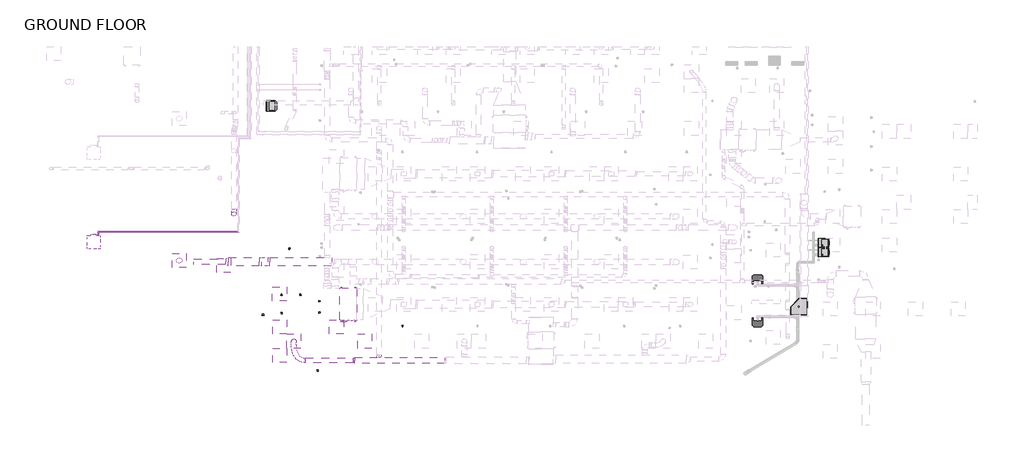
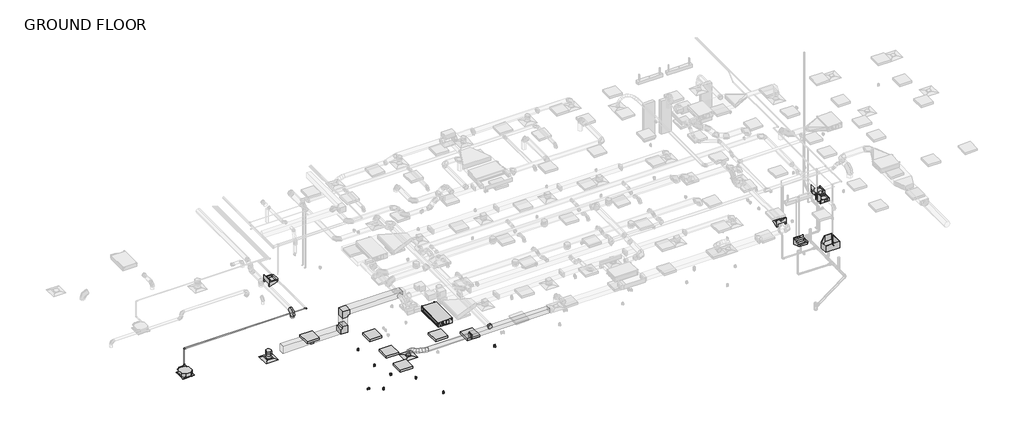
# One storey, part 1 of 20: 9 duct segments, 8 proxies, 7 duct fittings, 6 flow terminals, 6 light fixtures, 6 pipe fittings, 6 pipe segments, 3 switching devices, 2 air terminals.
"""IFC4 building model written with IfcOpenShell, lengths in millimetres."""

from ifc_helpers import new_model, si_unit, point, frame, frame_2d, origin, place, context, project, spatial, polyline, circle_curve, ellipse_curve, trimmed, segment, composite_curve, outline, extrude, transform, mapped, element, save
from ifc_brep_helpers import plane_surface, cylinder_surface, advanced_brep
from components import air_terminal_a1f6e78c, air_terminal_e9020785, mechanical_equipment_d478180c, mechanical_equipment_2d84379e, duplex_receptacle_countertop_10251bba, rectangular_elbow_mitered_transition_standard_eba0128a, rectangular_transition_angle_45_degree_15636467, rectangular_to_round_transition_angle_45_degree_e9430680, round_elbow_1_d_a253342a, round_takeoff_standard_d3b0d0f9, round_takeoff_standard_c386a54e, flow_terminal_3ae34a69, drinking_fountain_handicap_standard_fbed446a, flow_terminal_3fd0b982, troffer_corner_insert_2x2_3lamp_e67c7f8f, elbow_generic_standard_c06ac706, elbow_generic_standard_a088f956

model = new_model("IFC4")

# Units and contexts
model_context = context("Model", 3, world=origin())
ifc_project = project(units=[si_unit("LENGTHUNIT", "METRE", prefix="MILLI")], contexts=[model_context])

# Site, building, storey
site = spatial("IfcSite", under=ifc_project)
building = spatial("IfcBuilding", under=site)
storey = spatial("IfcBuildingStorey", under=building, Name="GROUND FLOOR", Elevation=30480.0)

# Air terminals
placement = place(None, origin())
air_terminal_shape = air_terminal_a1f6e78c(model_context)
element("IfcAirTerminal", 1, ObjectType="Supply Diffuser - Rectangular Face Round Neck - Hosted : 24\"x24\" Face 10\" Neck - Hosted", at=placement, inside=storey, context=model_context, shape_type="MappedRepresentation", body=[
    mapped(air_terminal_shape, transform((-13605.5079607, -2346.9179995, 32715.2), x_axis=(-1.0, 0.0, 0.0), y_axis=(0.0, 1.0, 0.0), z_axis=(0.0, 0.0, -1.0))),
])
air_terminal_2_shape = air_terminal_e9020785(model_context)
element("IfcAirTerminal", 2, ObjectType="Supply Diffuser - Rectangular Face Round Neck - Hosted : 24\"x24\" Face 8\" Neck - Hosted", at=placement, inside=storey, context=model_context, shape_type="MappedRepresentation", body=[
    mapped(air_terminal_2_shape, transform((-8685.8454607, -5809.2554995, 33223.2), x_axis=(0.0, -1.0, 0.0), y_axis=(-1.0, 0.0, 0.0), z_axis=(0.0, 0.0, -1.0))),
])

# Proxies
mechanical_equipment_shape = mechanical_equipment_d478180c(model_context)
element("IfcBuildingElementProxy", 3, Name="PEFY-P-NMAU-E_Medium_Static_Ducted : PEFY-P36NMAU-E", ObjectType="PEFY-P-NMAU-E_Medium_Static_Ducted : PEFY-P36NMAU-E", at=placement, inside=storey, context=model_context, shape_type="MappedRepresentation", body=[
    mapped(mechanical_equipment_shape, transform((-6407.5018914, -4238.1177424, 33458.15), x_axis=(0.0, -1.0, 0.0), y_axis=(1.0, 0.0, 0.0), z_axis=(0.0, 0.0, 1.0))),
])
mechanical_equipment_2_shape = mechanical_equipment_2d84379e(model_context)
element("IfcBuildingElementProxy", 4, Name="PLFY-P-NCMU-E_4-way_24x24 : PLFY-P12NCMU-E", ObjectType="PLFY-P-NCMU-E_4-way_24x24 : PLFY-P12NCMU-E", at=placement, inside=storey, context=model_context, shape_type="MappedRepresentation", body=[
    mapped(mechanical_equipment_2_shape, transform((-17276.6017107, -1632.1077908, 32715.2), x_axis=(1.0, 0.0, 0.0), y_axis=(0.0, -1.0, 0.0), z_axis=(0.0, 0.0, -1.0))),
])
duplex_receptacle_countertop_shape = duplex_receptacle_countertop_10251bba(model_context)
element("IfcBuildingElementProxy", 5, Name="Duplex Receptacle : Countertop", ObjectType="Duplex Receptacle : Countertop", at=placement, inside=storey, context=model_context, shape_type="MappedRepresentation", body=[
    mapped(duplex_receptacle_countertop_shape, transform((-9216.8506869, -3834.4054995, 31699.2), x_axis=(1.0, 0.0, 0.0), y_axis=(0.0, 0.0, 1.0), z_axis=(0.0, -1.0, 0.0))),
])
element("IfcBuildingElementProxy", 6, Name="Duplex Receptacle : Countertop", ObjectType="Duplex Receptacle : Countertop", at=placement, inside=storey, context=model_context, shape_type="MappedRepresentation", body=[
    mapped(duplex_receptacle_countertop_shape, transform((-7612.6954607, -4094.8803296, 31699.2), x_axis=(0.0, -1.0, 0.0), y_axis=(0.0, 0.0, 1.0), z_axis=(-1.0, 0.0, 0.0))),
])
element("IfcBuildingElementProxy", 7, Name="Duplex Receptacle : Countertop", ObjectType="Duplex Receptacle : Countertop", at=placement, inside=storey, context=model_context, shape_type="MappedRepresentation", body=[
    mapped(duplex_receptacle_countertop_shape, transform((-10013.3077558, -4704.3554995, 31283.4921716), x_axis=(0.0, 0.0, 1.0), y_axis=(-1.0, 0.0, 0.0), z_axis=(0.0, -1.0, 0.0))),
])
element("IfcBuildingElementProxy", 8, Name="Duplex Receptacle : Standard", ObjectType="Duplex Receptacle : Standard", at=placement, inside=storey, context=model_context, shape_type="MappedRepresentation", body=[
    mapped(duplex_receptacle_countertop_shape, transform((-8405.3543873, -3834.4054995, 30937.2), x_axis=(1.0, 0.0, 0.0), y_axis=(0.0, 0.0, 1.0), z_axis=(0.0, -1.0, 0.0))),
])
element("IfcBuildingElementProxy", 9, Name="Duplex Receptacle : Standard", ObjectType="Duplex Receptacle : Standard", at=placement, inside=storey, context=model_context, shape_type="MappedRepresentation", body=[
    mapped(duplex_receptacle_countertop_shape, transform((-7612.6954607, -4580.3290088, 30937.2), x_axis=(0.0, -1.0, 0.0), y_axis=(0.0, 0.0, 1.0), z_axis=(-1.0, 0.0, 0.0))),
])
element("IfcBuildingElementProxy", 10, Name="Duplex Receptacle : Standard", ObjectType="Duplex Receptacle : Standard", at=placement, inside=storey, context=model_context, shape_type="MappedRepresentation", body=[
    mapped(duplex_receptacle_countertop_shape, transform((-9209.1166922, -4580.5304995, 30937.2), x_axis=(-1.0, 0.0, 0.0), y_axis=(0.0, 0.0, 1.0), z_axis=(0.0, 1.0, 0.0))),
])

# Duct fittings
rectangular_elbow_mitered_transition_standard_shape = rectangular_elbow_mitered_transition_standard_eba0128a(model_context)
element("IfcDuctFitting", 11, ObjectType="Rectangular Elbow - Mitered - Transition : Standard", at=placement, inside=storey, context=model_context, shape_type="MappedRepresentation", body=[
    mapped(rectangular_elbow_mitered_transition_standard_shape, transform((-9938.144811, -2399.3054995, 33020.0), x_axis=(1.0, 0.0, 0.0), y_axis=(0.0, 0.0, 1.0), z_axis=(0.0, -1.0, 0.0))),
])
element("IfcDuctFitting", 12, ObjectType="Rectangular Elbow - Mitered - Transition : Standard", at=placement, inside=storey, context=model_context, shape_type="MappedRepresentation", body=[
    mapped(rectangular_elbow_mitered_transition_standard_shape, transform((-9938.144811, -2399.3054995, 33909.0), x_axis=(0.0, 0.0, 1.0), y_axis=(1.0, 0.0, 0.0), z_axis=(0.0, 1.0, 0.0))),
])
rectangular_transition_angle_45_degree_shape = rectangular_transition_angle_45_degree_15636467(model_context)
element("IfcDuctFitting", 13, ObjectType="Rectangular Transition - Angle : 45 Degree", at=placement, inside=storey, context=model_context, shape_type="MappedRepresentation", body=[
    mapped(rectangular_transition_angle_45_degree_shape, transform((-11614.544811, -2399.3054995, 33020.0), x_axis=(1.0, 0.0, 0.0), y_axis=(0.0, 1.0, 0.0), z_axis=(0.0, 0.0, 1.0))),
])
rectangular_to_round_transition_angle_45_degree_shape = rectangular_to_round_transition_angle_45_degree_e9430680(model_context)
element("IfcDuctFitting", 14, ObjectType="Rectangular to Round Transition - Angle : 45 Degree", at=placement, inside=storey, context=model_context, shape_type="MappedRepresentation", body=[
    mapped(rectangular_to_round_transition_angle_45_degree_shape, transform((-6064.4792966, -6635.2850038, 33877.25), x_axis=(-1.0, 0.0, 0.0), y_axis=(0.0, -1.0, 0.0), z_axis=(0.0, 0.0, 1.0))),
])
round_elbow_1_d_shape = round_elbow_1_d_a253342a(model_context)
element("IfcDuctFitting", 15, ObjectType="Round Elbow : 1 D", at=placement, inside=storey, context=model_context, shape_type="MappedRepresentation", body=[
    mapped(round_elbow_1_d_shape, transform((-11256.8513201, -341.9054995, 33121.6), x_axis=(0.0, -1.0, 0.0), y_axis=(0.0, 0.0, -1.0), z_axis=(1.0, 0.0, 0.0))),
])
round_takeoff_standard_shape = round_takeoff_standard_d3b0d0f9(model_context)
element("IfcDuctFitting", 16, ObjectType="Round Takeoff : Standard", at=placement, inside=storey, context=model_context, shape_type="MappedRepresentation", body=[
    mapped(round_takeoff_standard_shape, transform((-5028.2454607, -6508.2850038, 33877.25), x_axis=(0.0, 1.0, 0.0), y_axis=(1.0, 0.0, 0.0), z_axis=(0.0, 0.0, -1.0))),
])
round_takeoff_standard_2_shape = round_takeoff_standard_c386a54e(model_context)
element("IfcDuctFitting", 17, ObjectType="Round Takeoff : Standard", at=placement, inside=storey, context=model_context, shape_type="MappedRepresentation", body=[
    mapped(round_takeoff_standard_2_shape, transform((-13605.5079607, -2346.9179995, 32998.9347748), x_axis=(0.0, 0.0, -1.0), y_axis=(1.0, 0.0, 0.0), z_axis=(0.0, -1.0, 0.0))),
])

# Duct segments
element("IfcDuctSegment", 18, ObjectType="Flex - Round", at=placement, inside=storey, context=model_context, shape_type="AdvancedBrep", body=[
    advanced_brep(
    [(-8198.0792966, -6736.8850038, 33877.25), (-8198.0792966, -6635.2850038, 33775.65), (-8198.0792966, -6533.6850038, 33877.25), (-8198.0792966, -6635.2850038, 33978.85), (-8218.4985021, -6736.8850038, 33877.25), (-8209.2197661, -6635.2850038, 33775.65), (-8203.7506501, -6533.6850038, 33877.25), (-8213.0293861, -6635.2850038, 33978.85), (-8780.4464452, -5846.3123979, 33277.175), (-8722.9023592, -5714.6545149, 33277.175), (-8591.2444762, -5772.198601, 33277.175), (-8648.7885622, -5903.856484, 33277.175), (-8339.1813775, -6719.2681674, 33872.6992727), (-8305.7046683, -6621.2004973, 33772.0117333), (-8286.7257752, -6521.5726042, 33874.121162), (-8320.2024844, -6619.6402743, 33974.8087013), (-8470.9946788, -6667.3379246, 33857.9603557), (-8407.576349, -6581.0662995, 33760.620787), (-8373.445886, -6487.4076424, 33864.4244129), (-8436.8642158, -6573.6792675, 33961.7639816), (-8586.4194049, -6583.3695154, 33831.5875842), (-8494.3723968, -6517.9244901, 33740.7892274), (-8447.4747299, -6433.5536332, 33847.5099626), (-8539.5217381, -6498.9986586, 33938.3083194), (-8672.9590499, -6473.1112187, 33793.1745119), (-8559.9397444, -6434.3865455, 33711.6853032), (-8505.3268469, -6359.8454977, 33821.8306621), (-8618.3461523, -6398.570171, 33903.3198707), (-8729.5028063, -6349.7598134, 33744.3839657), (-8605.1998762, -6335.6506069, 33672.6311849), (-8548.0458512, -6266.6530828, 33784.969235), (-8672.3487813, -6280.7622894, 33856.7220158), (-8763.1059458, -6224.3988891, 33686.2556065), (-8633.5596559, -6229.8507249, 33623.5730468), (-8576.5078643, -6160.4718052, 33735.7342483), (-8706.0541542, -6155.0199695, 33798.4168081), (-8780.2289374, -6105.1031652, 33618.9182516), (-8648.4220926, -6126.3042664, 33565.1254814), (-8592.2442877, -6050.8362895, 33673.8496695), (-8724.0511326, -6029.6351883, 33727.6424397), (-8786.0904012, -6000.0543024, 33542.8019622), (-8653.5396732, -6034.5872396, 33498.6691717), (-8598.028372, -5947.1742189, 33598.7382218), (-8730.5790999, -5912.6412817, 33642.8710123), (-8785.3303968, -5917.6725877, 33459.215254), (-8652.8864253, -5963.7775382, 33426.8237401), (-8597.211928, -5858.6746506, 33508.9441744), (-8729.6558995, -5812.5697001, 33541.3356883), (-8782.2172351, -5864.8720883, 33369.7155214), (-8650.2671566, -5919.3536663, 33351.5228491), (-8593.5185156, -5796.0328612, 33402.7629174), (-8725.4685941, -5741.5512832, 33420.9555897), (-8780.4464452, -5846.3123979, 33291.2670205), (-8648.7885622, -5903.856484, 33286.0190236), (-8591.2444762, -5772.198601, 33302.0197505), (-8722.9023592, -5714.6545149, 33307.2677474)],
    [
        (0, 1, circle_curve(frame((-8198.0792966, -6635.2850038, 33877.25), z_axis=(1.0, 0.0, 0.0), x_axis=(0.0, -1.0, 0.0)), 101.6)),
        (1, 2, circle_curve(frame((-8198.0792966, -6635.2850038, 33877.25), z_axis=(1.0, 0.0, 0.0), x_axis=(0.0, -1.0, 0.0)), 101.6)),
        (2, 3, circle_curve(frame((-8198.0792966, -6635.2850038, 33877.25), z_axis=(1.0, 0.0, 0.0), x_axis=(0.0, -1.0, 0.0)), 101.6)),
        (3, 0, circle_curve(frame((-8198.0792966, -6635.2850038, 33877.25), z_axis=(1.0, 0.0, 0.0), x_axis=(0.0, -1.0, 0.0)), 101.6)),
        (0, 4),
        (4, 5, ellipse_curve(frame((-8211.1245761, -6635.2850038, 33877.25), z_axis=(0.9972022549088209, -0.07237495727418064, 0.01869567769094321), x_axis=(0.07475067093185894, 0.9655093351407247, -0.24940741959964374)), 101.8850484, 101.6)),
        (5, 1),
        (5, 6, ellipse_curve(frame((-8211.1245761, -6635.2850038, 33877.25), z_axis=(0.9972022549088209, -0.07237495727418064, 0.01869567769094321), x_axis=(0.07475067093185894, 0.9655093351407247, -0.24940741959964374)), 101.8850484, 101.6)),
        (6, 2),
        (6, 7, ellipse_curve(frame((-8211.1245761, -6635.2850038, 33877.25), z_axis=(0.9972022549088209, -0.07237495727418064, 0.01869567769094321), x_axis=(0.07475067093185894, 0.9655093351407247, -0.24940741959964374)), 101.8850484, 101.6)),
        (7, 3),
        (7, 4, ellipse_curve(frame((-8211.1245761, -6635.2850038, 33877.25), z_axis=(0.9972022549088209, -0.07237495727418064, 0.01869567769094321), x_axis=(0.07475067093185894, 0.9655093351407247, -0.24940741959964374)), 101.8850484, 101.6)),
        (8, 9, circle_curve(frame((-8685.8454607, -5809.2554995, 33277.175), z_axis=(0.0, 0.0, -1.0), x_axis=(-0.9311120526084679, -0.3647332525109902, 0.0)), 101.6)),
        (9, 10, circle_curve(frame((-8685.8454607, -5809.2554995, 33277.175), z_axis=(0.0, 0.0, -1.0), x_axis=(-0.9311120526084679, -0.3647332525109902, 0.0)), 101.6)),
        (10, 11, circle_curve(frame((-8685.8454607, -5809.2554995, 33277.175), z_axis=(0.0, 0.0, -1.0), x_axis=(-0.9311120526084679, -0.3647332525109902, 0.0)), 101.6)),
        (11, 8, circle_curve(frame((-8685.8454607, -5809.2554995, 33277.175), z_axis=(0.0, 0.0, -1.0), x_axis=(-0.9311120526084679, -0.3647332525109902, 0.0)), 101.6)),
        (4, 12),
        (12, 13, ellipse_curve(frame((-8312.9535763, -6620.4203858, 33873.4102173), z_axis=(0.9639965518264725, -0.25629211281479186, 0.07088724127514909), x_axis=(0.26585434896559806, 0.9232205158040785, -0.2774623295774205)), 102.330517, 101.6)),
        (13, 5),
        (13, 14, ellipse_curve(frame((-8312.9535763, -6620.4203858, 33873.4102173), z_axis=(0.9639965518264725, -0.25629211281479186, 0.07088724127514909), x_axis=(0.26585434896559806, 0.9232205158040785, -0.2774623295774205)), 102.330517, 101.6)),
        (14, 6),
        (14, 15, ellipse_curve(frame((-8312.9535763, -6620.4203858, 33873.4102173), z_axis=(0.9639965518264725, -0.25629211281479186, 0.07088724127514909), x_axis=(0.26585434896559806, 0.9232205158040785, -0.2774623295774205)), 102.330517, 101.6)),
        (15, 7),
        (15, 12, ellipse_curve(frame((-8312.9535763, -6620.4203858, 33873.4102173), z_axis=(0.9639965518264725, -0.25629211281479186, 0.07088724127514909), x_axis=(0.26585434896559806, 0.9232205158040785, -0.2774623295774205)), 102.330517, 101.6)),
        (12, 16),
        (16, 17, ellipse_curve(frame((-8422.2202824, -6577.3727835, 33861.1923843), z_axis=(0.8678005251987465, -0.4756430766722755, 0.14382597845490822), x_axis=(0.4963065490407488, 0.8153501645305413, -0.29813406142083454)), 102.4855472, 101.6)),
        (17, 13),
        (17, 18, ellipse_curve(frame((-8422.2202824, -6577.3727835, 33861.1923843), z_axis=(0.8678005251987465, -0.4756430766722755, 0.14382597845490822), x_axis=(0.4963065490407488, 0.8153501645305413, -0.29813406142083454)), 102.4855472, 101.6)),
        (18, 14),
        (18, 19, ellipse_curve(frame((-8422.2202824, -6577.3727835, 33861.1923843), z_axis=(0.8678005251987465, -0.4756430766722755, 0.14382597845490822), x_axis=(0.4963065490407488, 0.8153501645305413, -0.29813406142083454)), 102.4855472, 101.6)),
        (19, 15),
        (19, 16, ellipse_curve(frame((-8422.2202824, -6577.3727835, 33861.1923843), z_axis=(0.8678005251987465, -0.4756430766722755, 0.14382597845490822), x_axis=(0.4963065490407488, 0.8153501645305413, -0.29813406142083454)), 102.4855472, 101.6)),
        (16, 20),
        (20, 21, ellipse_curve(frame((-8516.9470674, -6508.4615743, 33839.5487734), z_axis=(0.702315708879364, -0.6752916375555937, 0.2252417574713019), x_axis=(0.7098106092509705, 0.6402843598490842, -0.2936066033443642)), 102.6208376, 101.6)),
        (21, 17),
        (21, 22, ellipse_curve(frame((-8516.9470674, -6508.4615743, 33839.5487734), z_axis=(0.702315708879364, -0.6752916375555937, 0.2252417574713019), x_axis=(0.7098106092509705, 0.6402843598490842, -0.2936066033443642)), 102.6208376, 101.6)),
        (22, 18),
        (22, 23, ellipse_curve(frame((-8516.9470674, -6508.4615743, 33839.5487734), z_axis=(0.702315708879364, -0.6752916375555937, 0.2252417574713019), x_axis=(0.7098106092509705, 0.6402843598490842, -0.2936066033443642)), 102.6208376, 101.6)),
        (23, 19),
        (23, 20, ellipse_curve(frame((-8516.9470674, -6508.4615743, 33839.5487734), z_axis=(0.702315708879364, -0.6752916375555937, 0.2252417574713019), x_axis=(0.7098106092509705, 0.6402843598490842, -0.2936066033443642)), 102.6208376, 101.6)),
        (20, 24),
        (24, 25, ellipse_curve(frame((-8589.1429484, -6416.4783582, 33807.502587), z_axis=(0.497296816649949, -0.8127730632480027, 0.3034729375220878), x_axis=(0.857785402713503, 0.4082076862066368, -0.31236307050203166)), 102.3212376, 101.6)),
        (25, 21),
        (25, 26, ellipse_curve(frame((-8589.1429484, -6416.4783582, 33807.502587), z_axis=(0.497296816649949, -0.8127730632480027, 0.3034729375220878), x_axis=(0.857785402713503, 0.4082076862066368, -0.31236307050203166)), 102.3212376, 101.6)),
        (26, 22),
        (26, 27, ellipse_curve(frame((-8589.1429484, -6416.4783582, 33807.502587), z_axis=(0.497296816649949, -0.8127730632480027, 0.3034729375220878), x_axis=(0.857785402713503, 0.4082076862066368, -0.31236307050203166)), 102.3212376, 101.6)),
        (27, 23),
        (27, 24, ellipse_curve(frame((-8589.1429484, -6416.4783582, 33807.502587), z_axis=(0.497296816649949, -0.8127730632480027, 0.3034729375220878), x_axis=(0.857785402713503, 0.4082076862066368, -0.31236307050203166)), 102.3212376, 101.6)),
        (24, 28),
        (28, 29, ellipse_curve(frame((-8638.7743288, -6308.2064481, 33764.6766004), z_axis=(0.3153905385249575, -0.8717420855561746, 0.37495939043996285), x_axis=(0.9008898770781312, 0.15088375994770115, -0.40697852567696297)), 101.9821261, 101.6)),
        (29, 25),
        (29, 30, ellipse_curve(frame((-8638.7743288, -6308.2064481, 33764.6766004), z_axis=(0.3153905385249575, -0.8717420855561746, 0.37495939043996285), x_axis=(0.9008898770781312, 0.15088375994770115, -0.40697852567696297)), 101.9821261, 101.6)),
        (30, 26),
        (30, 31, ellipse_curve(frame((-8638.7743288, -6308.2064481, 33764.6766004), z_axis=(0.3153905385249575, -0.8717420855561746, 0.37495939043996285), x_axis=(0.9008898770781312, 0.15088375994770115, -0.40697852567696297)), 101.9821261, 101.6)),
        (31, 27),
        (31, 28, ellipse_curve(frame((-8638.7743288, -6308.2064481, 33764.6766004), z_axis=(0.3153905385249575, -0.8717420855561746, 0.37495939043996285), x_axis=(0.9008898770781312, 0.15088375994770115, -0.40697852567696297)), 101.9821261, 101.6)),
        (28, 32),
        (32, 33, ellipse_curve(frame((-8669.8069051, -6192.4353472, 33710.9949274), z_axis=(0.18059511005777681, -0.8749201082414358, 0.44933307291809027), x_axis=(0.8112873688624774, -0.12576767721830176, -0.570959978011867)), 101.8440562, 101.6)),
        (33, 29),
        (33, 34, ellipse_curve(frame((-8669.8069051, -6192.4353472, 33710.9949274), z_axis=(0.18059511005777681, -0.8749201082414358, 0.44933307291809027), x_axis=(0.8112873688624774, -0.12576767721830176, -0.570959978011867)), 101.8440562, 101.6)),
        (34, 30),
        (34, 35, ellipse_curve(frame((-8669.8069051, -6192.4353472, 33710.9949274), z_axis=(0.18059511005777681, -0.8749201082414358, 0.44933307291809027), x_axis=(0.8112873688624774, -0.12576767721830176, -0.570959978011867)), 101.8440562, 101.6)),
        (35, 31),
        (35, 32, ellipse_curve(frame((-8669.8069051, -6192.4353472, 33710.9949274), z_axis=(0.18059511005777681, -0.8749201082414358, 0.44933307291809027), x_axis=(0.8112873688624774, -0.12576767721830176, -0.570959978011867)), 101.8440562, 101.6)),
        (32, 36),
        (36, 37, ellipse_curve(frame((-8686.2366126, -6077.9697273, 33646.3839605), z_axis=(0.08478508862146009, -0.8385227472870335, 0.5382295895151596), x_axis=(0.5731333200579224, -0.4008265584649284, -0.7147420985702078)), 101.8415032, 101.6)),
        (37, 33),
        (37, 38, ellipse_curve(frame((-8686.2366126, -6077.9697273, 33646.3839605), z_axis=(0.08478508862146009, -0.8385227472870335, 0.5382295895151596), x_axis=(0.5731333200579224, -0.4008265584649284, -0.7147420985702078)), 101.8415032, 101.6)),
        (38, 34),
        (38, 39, ellipse_curve(frame((-8686.2366126, -6077.9697273, 33646.3839605), z_axis=(0.08478508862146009, -0.8385227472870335, 0.5382295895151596), x_axis=(0.5731333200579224, -0.4008265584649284, -0.7147420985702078)), 101.8415032, 101.6)),
        (39, 35),
        (39, 36, ellipse_curve(frame((-8686.2366126, -6077.9697273, 33646.3839605), z_axis=(0.08478508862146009, -0.8385227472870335, 0.5382295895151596), x_axis=(0.5731333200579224, -0.4008265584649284, -0.7147420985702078)), 101.8415032, 101.6)),
        (36, 40),
        (40, 41, ellipse_curve(frame((-8692.0593866, -5973.6142607, 33570.770092), z_axis=(0.019403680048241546, -0.7582927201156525, 0.6516253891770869), x_axis=(0.2979591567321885, -0.6177476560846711, -0.7277418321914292)), 101.9832289, 101.6)),
        (41, 37),
        (41, 42, ellipse_curve(frame((-8692.0593866, -5973.6142607, 33570.770092), z_axis=(0.019403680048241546, -0.7582927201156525, 0.6516253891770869), x_axis=(0.2979591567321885, -0.6177476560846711, -0.7277418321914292)), 101.9832289, 101.6)),
        (42, 38),
        (42, 43, ellipse_curve(frame((-8692.0593866, -5973.6142607, 33570.770092), z_axis=(0.019403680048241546, -0.7582927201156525, 0.6516253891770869), x_axis=(0.2979591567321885, -0.6177476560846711, -0.7277418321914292)), 101.9832289, 101.6)),
        (43, 39),
        (43, 40, ellipse_curve(frame((-8692.0593866, -5973.6142607, 33570.770092), z_axis=(0.019403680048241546, -0.7582927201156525, 0.6516253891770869), x_axis=(0.2979591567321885, -0.6177476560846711, -0.7277418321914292)), 101.9832289, 101.6)),
        (40, 44),
        (44, 45, ellipse_curve(frame((-8691.2711624, -5888.1736191, 33484.0797142), z_axis=(-0.01834951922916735, -0.6095278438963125, 0.7925522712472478), x_axis=(0.09556421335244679, -0.7901257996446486, -0.6054491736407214)), 102.3747884, 101.6)),
        (45, 41),
        (45, 46, ellipse_curve(frame((-8691.2711624, -5888.1736191, 33484.0797142), z_axis=(-0.01834951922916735, -0.6095278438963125, 0.7925522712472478), x_axis=(0.09556421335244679, -0.7901257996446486, -0.6054491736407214)), 102.3747884, 101.6)),
        (46, 42),
        (46, 47, ellipse_curve(frame((-8691.2711624, -5888.1736191, 33484.0797142), z_axis=(-0.01834951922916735, -0.6095278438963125, 0.7925522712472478), x_axis=(0.09556421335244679, -0.7901257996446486, -0.6054491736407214)), 102.3747884, 101.6)),
        (47, 43),
        (47, 44, ellipse_curve(frame((-8691.2711624, -5888.1736191, 33484.0797142), z_axis=(-0.01834951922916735, -0.6095278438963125, 0.7925522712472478), x_axis=(0.09556421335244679, -0.7901257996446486, -0.6054491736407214)), 102.3747884, 101.6)),
        (44, 48),
        (48, 49, ellipse_curve(frame((-8687.8678753, -5830.4524747, 33386.2392194), z_axis=(-0.02624939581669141, -0.3732420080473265, 0.9273625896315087), x_axis=(-0.0266548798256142, -0.9270910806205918, -0.37388720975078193)), 102.7591668, 101.6)),
        (49, 45),
        (49, 50, ellipse_curve(frame((-8687.8678753, -5830.4524747, 33386.2392194), z_axis=(-0.02624939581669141, -0.3732420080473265, 0.9273625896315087), x_axis=(-0.0266548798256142, -0.9270910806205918, -0.37388720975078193)), 102.7591668, 101.6)),
        (50, 46),
        (50, 51, ellipse_curve(frame((-8687.8678753, -5830.4524747, 33386.2392194), z_axis=(-0.02624939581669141, -0.3732420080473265, 0.9273625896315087), x_axis=(-0.0266548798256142, -0.9270910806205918, -0.37388720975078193)), 102.7591668, 101.6)),
        (51, 47),
        (51, 48, ellipse_curve(frame((-8687.8678753, -5830.4524747, 33386.2392194), z_axis=(-0.02624939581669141, -0.3732420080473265, 0.9273625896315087), x_axis=(-0.0266548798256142, -0.9270910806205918, -0.37388720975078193)), 102.7591668, 101.6)),
        (48, 52),
        (52, 53, ellipse_curve(frame((-8685.8454607, -5809.2554995, 33296.6433855), z_axis=(-0.011055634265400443, -0.11587436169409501, 0.9932023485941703), x_axis=(-0.09433356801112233, -0.9887123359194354, -0.11640057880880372)), 102.2953683, 101.6)),
        (53, 49),
        (53, 54, ellipse_curve(frame((-8685.8454607, -5809.2554995, 33296.6433855), z_axis=(-0.011055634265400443, -0.11587436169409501, 0.9932023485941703), x_axis=(-0.09433356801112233, -0.9887123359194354, -0.11640057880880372)), 102.2953683, 101.6)),
        (54, 50),
        (54, 55, ellipse_curve(frame((-8685.8454607, -5809.2554995, 33296.6433855), z_axis=(-0.011055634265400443, -0.11587436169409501, 0.9932023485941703), x_axis=(-0.09433356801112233, -0.9887123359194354, -0.11640057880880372)), 102.2953683, 101.6)),
        (55, 51),
        (55, 52, ellipse_curve(frame((-8685.8454607, -5809.2554995, 33296.6433855), z_axis=(-0.011055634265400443, -0.11587436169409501, 0.9932023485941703), x_axis=(-0.09433356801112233, -0.9887123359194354, -0.11640057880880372)), 102.2953683, 101.6)),
        (52, 8),
        (11, 53),
        (10, 54),
        (9, 55),
    ],
    [
        plane_surface(frame((-8198.0792966, -6635.2850038, 33775.65), z_axis=(1.0, 0.0, 0.0), x_axis=(0.0, -1.0, 0.0))),
        cylinder_surface(frame((-8198.0792966, -6635.2850038, 33877.25), z_axis=(1.0, 0.0, 0.0), x_axis=(0.0, -1.0, 0.0)), 101.6),
        plane_surface(frame((-8685.8454607, -5910.8554995, 33277.175), z_axis=(0.0, 0.0, -1.0), x_axis=(-1.0, 0.0, 0.0))),
        cylinder_surface(frame((-8211.1245761, -6635.2850038, 33877.25), z_axis=(0.9888246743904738, -0.144344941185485, 0.03728674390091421), x_axis=(-0.144344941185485, -0.9895237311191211, -0.0027061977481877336)), 101.6),
        cylinder_surface(frame((-8312.9535763, -6620.4203858, 33873.4102173), z_axis=(0.9254048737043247, -0.36458004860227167, 0.10347563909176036), x_axis=(-0.3646514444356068, -0.9309521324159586, -0.01890638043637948)), 101.6),
        cylinder_surface(frame((-8422.2202824, -6577.3727835, 33861.1923843), z_axis=(0.7951993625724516, -0.5784863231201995, 0.18169080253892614), x_axis=(-0.5792359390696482, -0.8133379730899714, -0.05447080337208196)), 101.6),
        cylinder_surface(frame((-8516.9470674, -6508.4615743, 33839.5487734), z_axis=(0.5954592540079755, -0.7586618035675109, 0.264311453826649), x_axis=(-0.762069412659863, -0.6375396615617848, -0.11310786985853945)), 101.6),
        cylinder_surface(frame((-8589.1429484, -6416.4783582, 33807.502587), z_axis=(0.3921237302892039, -0.8554262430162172, 0.33835620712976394), x_axis=(-0.8663776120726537, -0.46706019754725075, -0.17676143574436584)), 101.6),
        cylinder_surface(frame((-8638.7743288, -6308.2064481, 33764.6766004), z_axis=(0.23629381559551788, -0.8815251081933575, 0.4087526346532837), x_axis=(-0.9090375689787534, -0.34914771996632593, -0.2274787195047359)), 101.6),
        cylinder_surface(frame((-8669.8069051, -6192.4353472, 33710.9949274), z_axis=(0.12403085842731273, -0.8641218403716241, 0.4877599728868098), x_axis=(-0.9231582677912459, -0.28073787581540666, -0.26261199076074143)), 101.6),
        cylinder_surface(frame((-8686.2366126, -6077.9697273, 33646.3839605), z_axis=(0.04513720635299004, -0.8089467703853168, 0.58614653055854), x_axis=(-0.9258356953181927, -0.254258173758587, -0.2796087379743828)), 101.6),
        cylinder_surface(frame((-8692.0593866, -5973.6142607, 33570.770092), z_axis=(-0.006475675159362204, -0.7019396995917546, 0.7122069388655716), x_axis=(-0.9255499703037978, -0.265424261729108, -0.2700133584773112)), 101.6),
        cylinder_surface(frame((-8691.2711624, -5888.1736191, 33484.0797142), z_axis=(-0.029945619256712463, -0.5078899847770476, 0.8609012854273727), x_axis=(-0.9268429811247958, -0.3083750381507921, -0.21416564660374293)), 101.6),
        cylinder_surface(frame((-8687.8678753, -5830.4524747, 33386.2392194), z_axis=(-0.02196096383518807, -0.2301733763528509, 0.9729018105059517), x_axis=(-0.9299499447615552, -0.3525531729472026, -0.10440000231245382)), 101.6),
        cylinder_surface(frame((-8685.8454607, -5809.2554995, 33296.6433855), z_axis=(0.0, 0.0, 0.9999999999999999), x_axis=(-0.9311120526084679, -0.3647332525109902, 0.0)), 101.6),
    ],
    [
        (0, [[1, 2, 3, 4]]),
        (1, [[-1, 5, 6, 7]]),
        (1, [[-2, -7, 8, 9]]),
        (1, [[-3, -9, 10, 11]]),
        (1, [[-4, -11, 12, -5]]),
        (2, [[13, 14, 15, 16]]),
        (3, [[-6, 17, 18, 19]]),
        (3, [[-8, -19, 20, 21]]),
        (3, [[-10, -21, 22, 23]]),
        (3, [[-12, -23, 24, -17]]),
        (4, [[-18, 25, 26, 27]]),
        (4, [[-20, -27, 28, 29]]),
        (4, [[-22, -29, 30, 31]]),
        (4, [[-24, -31, 32, -25]]),
        (5, [[-26, 33, 34, 35]]),
        (5, [[-28, -35, 36, 37]]),
        (5, [[-30, -37, 38, 39]]),
        (5, [[-32, -39, 40, -33]]),
        (6, [[-34, 41, 42, 43]]),
        (6, [[-36, -43, 44, 45]]),
        (6, [[-38, -45, 46, 47]]),
        (6, [[-40, -47, 48, -41]]),
        (7, [[-42, 49, 50, 51]]),
        (7, [[-44, -51, 52, 53]]),
        (7, [[-46, -53, 54, 55]]),
        (7, [[-48, -55, 56, -49]]),
        (8, [[-50, 57, 58, 59]]),
        (8, [[-52, -59, 60, 61]]),
        (8, [[-54, -61, 62, 63]]),
        (8, [[-56, -63, 64, -57]]),
        (9, [[-58, 65, 66, 67]]),
        (9, [[-60, -67, 68, 69]]),
        (9, [[-62, -69, 70, 71]]),
        (9, [[-64, -71, 72, -65]]),
        (10, [[-66, 73, 74, 75]]),
        (10, [[-68, -75, 76, 77]]),
        (10, [[-70, -77, 78, 79]]),
        (10, [[-72, -79, 80, -73]]),
        (11, [[-74, 81, 82, 83]]),
        (11, [[-76, -83, 84, 85]]),
        (11, [[-78, -85, 86, 87]]),
        (11, [[-80, -87, 88, -81]]),
        (12, [[-82, 89, 90, 91]]),
        (12, [[-84, -91, 92, 93]]),
        (12, [[-86, -93, 94, 95]]),
        (12, [[-88, -95, 96, -89]]),
        (13, [[-90, 97, 98, 99]]),
        (13, [[-92, -99, 100, 101]]),
        (13, [[-94, -101, 102, 103]]),
        (13, [[-96, -103, 104, -97]]),
        (14, [[-98, 105, -16, 106]]),
        (14, [[-100, -106, -15, 107]]),
        (14, [[-102, -107, -14, 108]]),
        (14, [[-104, -108, -13, -105]]),
    ],
),
])
element("IfcDuctSegment", 19, ObjectType="Mitered Elbows / Taps", at=placement, inside=storey, context=model_context, shape_type="SweptSolid", body=[
    extrude(outline(polyline([(-2214.200321, -6508.2850038), (-2214.200321, -6762.2850038), (-6064.4792966, -6762.2850038), (-6064.4792966, -6508.2850038), (-2214.200321, -6508.2850038)])), frame((0.0, 0.0, 33775.65), z_axis=(0.0, 0.0, 1.0), x_axis=(1.0, 0.0, 0.0)), (0.0, 0.0, 1.0), 203.2),
])
element("IfcDuctSegment", 20, ObjectType="Mitered Elbows / Taps", at=placement, inside=storey, context=model_context, shape_type="SweptSolid", body=[
    extrude(outline(polyline([(-12986.144811, -2526.3054995), (-12986.144811, -2272.3054995), (-11614.544811, -2272.3054995), (-11614.544811, -2526.3054995), (-12986.144811, -2526.3054995)])), frame((0.0, 0.0, 32842.2), z_axis=(0.0, 0.0, 1.0), x_axis=(1.0, 0.0, 0.0)), (0.0, 0.0, 1.0), 355.6),
])
element("IfcDuctSegment", 21, ObjectType="Mitered Elbows / Taps", at=placement, inside=storey, context=model_context, shape_type="SweptSolid", body=[
    extrude(outline(polyline([(-11491.902762, -2577.1054995), (-11491.902762, -2221.5054995), (-10166.744811, -2221.5054995), (-10166.744811, -2577.1054995), (-11491.902762, -2577.1054995)])), frame((0.0, 0.0, 32893.0), z_axis=(0.0, 0.0, 1.0), x_axis=(1.0, 0.0, 0.0)), (0.0, 0.0, 1.0), 254.0),
])
element("IfcDuctSegment", 22, ObjectType="Mitered Elbows / Taps", at=placement, inside=storey, context=model_context, shape_type="SweptSolid", body=[
    extrude(outline(polyline([(-9811.144811, -2221.5054995), (-9811.144811, -2577.1054995), (-10065.144811, -2577.1054995), (-10065.144811, -2221.5054995), (-9811.144811, -2221.5054995)])), frame((0.0, 0.0, 33248.6), z_axis=(0.0, 0.0, 1.0), x_axis=(1.0, 0.0, 0.0)), (0.0, 0.0, 1.0), 431.8),
])
element("IfcDuctSegment", 23, ObjectType="Mitered Elbows / Taps", at=placement, inside=storey, context=model_context, shape_type="SweptSolid", body=[
    extrude(outline(polyline([(-9709.544811, -2577.1054995), (-9709.544811, -2221.5054995), (-7067.944811, -2221.5054995), (-7067.944811, -2577.1054995), (-9709.544811, -2577.1054995)])), frame((0.0, 0.0, 33782.0), z_axis=(0.0, 0.0, 1.0), x_axis=(1.0, 0.0, 0.0)), (0.0, 0.0, 1.0), 254.0),
])
element("IfcDuctSegment", 24, ObjectType="Taps / Short Radius", at=placement, inside=storey, context=model_context, shape_type="SweptSolid", body=[
    extrude(outline(composite_curve([segment(trimmed(circle_curve(frame_2d((-13605.5079607, -2346.9179995)), 127.0), [point((-13478.5079607, -2346.9179995))], [point((-13605.5079607, -2473.9179995))], False, "CARTESIAN"), True, "CONTINUOUS"), segment(trimmed(circle_curve(frame_2d((-13605.5079607, -2346.9179995)), 127.0), [point((-13605.5079607, -2473.9179995))], [point((-13732.5079607, -2346.9179995))], False, "CARTESIAN"), True, "CONTINUOUS"), segment(trimmed(circle_curve(frame_2d((-13605.5079607, -2346.9179995)), 127.0), [point((-13732.5079607, -2346.9179995))], [point((-13605.5079607, -2219.9179995))], False, "CARTESIAN"), True, "CONTINUOUS"), segment(trimmed(circle_curve(frame_2d((-13605.5079607, -2346.9179995)), 127.0), [point((-13605.5079607, -2219.9179995))], [point((-13478.5079607, -2346.9179995))], False, "CARTESIAN"), True, "CONTINUOUS")], self_intersect=False)), frame((0.0, 0.0, 32769.175), z_axis=(0.0, 0.0, 1.0), x_axis=(1.0, 0.0, 0.0)), (0.0, 0.0, 1.0), 128.1597748),
])
element("IfcDuctSegment", 25, ObjectType="Taps / Short Radius", at=placement, inside=storey, context=model_context, shape_type="SweptSolid", body=[
    extrude(outline(composite_curve([segment(trimmed(circle_curve(frame_2d((-6635.2850038, 33877.25)), 101.6), [point((-6533.6850038, 33877.25))], [point((-6635.2850038, 33775.65))], False, "CARTESIAN"), True, "CONTINUOUS"), segment(trimmed(circle_curve(frame_2d((-6635.2850038, 33877.25)), 101.6), [point((-6635.2850038, 33775.65))], [point((-6736.8850038, 33877.25))], False, "CARTESIAN"), True, "CONTINUOUS"), segment(trimmed(circle_curve(frame_2d((-6635.2850038, 33877.25)), 101.6), [point((-6736.8850038, 33877.25))], [point((-6635.2850038, 33978.85))], False, "CARTESIAN"), True, "CONTINUOUS"), segment(trimmed(circle_curve(frame_2d((-6635.2850038, 33877.25)), 101.6), [point((-6635.2850038, 33978.85))], [point((-6533.6850038, 33877.25))], False, "CARTESIAN"), True, "CONTINUOUS")], self_intersect=False)), frame((-8198.0792966, 0.0, 0.0), z_axis=(1.0, 0.0, 0.0), x_axis=(0.0, 1.0, 0.0)), (0.0, 0.0, 1.0), 2072.2789755),
])
element("IfcDuctSegment", 26, ObjectType="Taps / Short Radius", at=placement, inside=storey, context=model_context, shape_type="SweptSolid", body=[
    extrude(outline(composite_curve([segment(trimmed(circle_curve(frame_2d((-11256.8513201, -341.9054995)), 101.6), [point((-11155.2513201, -341.9054995))], [point((-11256.8513201, -443.5054995))], False, "CARTESIAN"), True, "CONTINUOUS"), segment(trimmed(circle_curve(frame_2d((-11256.8513201, -341.9054995)), 101.6), [point((-11256.8513201, -443.5054995))], [point((-11358.4513201, -341.9054995))], False, "CARTESIAN"), True, "CONTINUOUS"), segment(trimmed(circle_curve(frame_2d((-11256.8513201, -341.9054995)), 101.6), [point((-11358.4513201, -341.9054995))], [point((-11256.8513201, -240.3054995))], False, "CARTESIAN"), True, "CONTINUOUS"), segment(trimmed(circle_curve(frame_2d((-11256.8513201, -341.9054995)), 101.6), [point((-11256.8513201, -240.3054995))], [point((-11155.2513201, -341.9054995))], False, "CARTESIAN"), True, "CONTINUOUS")], self_intersect=False)), frame((0.0, 0.0, 32816.8), z_axis=(0.0, 0.0, 1.0), x_axis=(1.0, 0.0, 0.0)), (0.0, 0.0, 1.0), 101.6),
])

# Flow terminals
flow_terminal_shape = flow_terminal_3ae34a69(model_context)
element("IfcFlowTerminal", 27, ObjectType="Lavatory_Commercial-Willoughby-ES-1015-HC : Lavatory_Commercial-Willoughby-ES-1015-HC", at=placement, inside=storey, context=model_context, shape_type="MappedRepresentation", body=[
    mapped(flow_terminal_shape, transform((11224.5795393, -3342.2804995, 31699.2), x_axis=(-1.0, 0.0, 0.0), y_axis=(0.0, 0.0, 1.0), z_axis=(0.0, 1.0, 0.0))),
])
element("IfcFlowTerminal", 28, ObjectType="Lavatory_Commercial-Willoughby-ES-1015-HC : Lavatory_Commercial-Willoughby-ES-1015-HC", at=placement, inside=storey, context=model_context, shape_type="MappedRepresentation", body=[
    mapped(flow_terminal_shape, transform((11224.5795393, -4809.1304995, 31699.2), x_axis=(1.0, 0.0, 0.0), y_axis=(0.0, 0.0, 1.0), z_axis=(0.0, -1.0, 0.0))),
])
element("IfcFlowTerminal", 29, ObjectType="Lavatory_Commercial-Willoughby-ES-1015-HC : Lavatory_Commercial-Willoughby-ES-1015-HC", at=placement, inside=storey, context=model_context, shape_type="MappedRepresentation", body=[
    mapped(flow_terminal_shape, transform((-9879.6454607, 4296.7695005, 31394.4), x_axis=(0.0, 1.0, 0.0), y_axis=(0.0, 0.0, 1.0), z_axis=(1.0, 0.0, 0.0))),
])
drinking_fountain_handicap_standard_shape = drinking_fountain_handicap_standard_fbed446a(model_context)
element("IfcFlowTerminal", 30, ObjectType="Drinking Fountain - Handicap : Standard", at=placement, inside=storey, context=model_context, shape_type="MappedRepresentation", body=[
    mapped(drinking_fountain_handicap_standard_shape, transform((13828.0795393, -1992.9054995, 31242.0), x_axis=(0.0, 1.0, 0.0), y_axis=(0.0, 0.0, 1.0), z_axis=(1.0, 0.0, 0.0))),
])
element("IfcFlowTerminal", 31, ObjectType="Drinking Fountain - Handicap : Standard", at=placement, inside=storey, context=model_context, shape_type="MappedRepresentation", body=[
    mapped(drinking_fountain_handicap_standard_shape, transform((13828.0795393, -1586.5054995, 31394.4), x_axis=(0.0, 1.0, 0.0), y_axis=(0.0, 0.0, 1.0), z_axis=(1.0, 0.0, 0.0))),
])
flow_terminal_2_shape = flow_terminal_3fd0b982(model_context)
element("IfcFlowTerminal", 32, ObjectType="Sink - Mop : 28\"x28\"", at=placement, inside=storey, context=model_context, shape_type="MappedRepresentation", body=[
    mapped(flow_terminal_2_shape, transform((13348.6545393, -4685.3054995, 30480.0), x_axis=(-1.0, 0.0, 0.0), y_axis=(0.0, -1.0, 0.0), z_axis=(0.0, 0.0, 1.0))),
])

# Light fixtures
troffer_corner_insert_2x2_3lamp_shape = troffer_corner_insert_2x2_3lamp_e67c7f8f(model_context)
element("IfcLightFixture", 33, ObjectType="Troffer Corner Insert : 2x2 3Lamp", at=placement, inside=storey, context=model_context, shape_type="MappedRepresentation", body=[
    mapped(troffer_corner_insert_2x2_3lamp_shape, transform((-5637.8454607, -5809.2554995, 30784.8), x_axis=(1.0, 0.0, 0.0), y_axis=(0.0, 1.0, 0.0), z_axis=(0.0, 0.0, 1.0))),
])
element("IfcLightFixture", 34, ObjectType="Troffer Corner Insert : 2x2 3Lamp", at=placement, inside=storey, context=model_context, shape_type="MappedRepresentation", body=[
    mapped(troffer_corner_insert_2x2_3lamp_shape, transform((-6857.0454607, -5199.6554995, 30784.8), x_axis=(1.0, 0.0, 0.0), y_axis=(0.0, 1.0, 0.0), z_axis=(0.0, 0.0, 1.0))),
])
element("IfcLightFixture", 35, ObjectType="Troffer Corner Insert : 2x2 3Lamp", at=placement, inside=storey, context=model_context, shape_type="MappedRepresentation", body=[
    mapped(troffer_corner_insert_2x2_3lamp_shape, transform((-9298.6204607, -3780.4553042, 30784.8), x_axis=(1.0, 0.0, 0.0), y_axis=(0.0, 1.0, 0.0), z_axis=(0.0, 0.0, 1.0))),
])
element("IfcLightFixture", 36, ObjectType="Troffer Corner Insert : 2x2 3Lamp", at=placement, inside=storey, context=model_context, shape_type="MappedRepresentation", body=[
    mapped(troffer_corner_insert_2x2_3lamp_shape, transform((-11696.5392107, -2561.2553042, 30784.8), x_axis=(1.0, 0.0, 0.0), y_axis=(0.0, 1.0, 0.0), z_axis=(0.0, 0.0, 1.0))),
])
element("IfcLightFixture", 37, ObjectType="Troffer Corner Insert : 2x2 3Lamp", at=placement, inside=storey, context=model_context, shape_type="MappedRepresentation", body=[
    mapped(troffer_corner_insert_2x2_3lamp_shape, transform((-9295.4454607, -5199.6554995, 30784.8), x_axis=(1.0, 0.0, 0.0), y_axis=(0.0, 1.0, 0.0), z_axis=(0.0, 0.0, 1.0))),
])
element("IfcLightFixture", 38, ObjectType="Troffer Corner Insert : 2x2 3Lamp", at=placement, inside=storey, context=model_context, shape_type="MappedRepresentation", body=[
    mapped(troffer_corner_insert_2x2_3lamp_shape, transform((-9295.4454607, -6418.8554995, 30784.8), x_axis=(1.0, 0.0, 0.0), y_axis=(0.0, 1.0, 0.0), z_axis=(0.0, 0.0, 1.0))),
])

# Pipe fittings
elbow_generic_standard_shape = elbow_generic_standard_c06ac706(model_context)
element("IfcPipeFitting", 39, ObjectType="Elbow - Generic : Standard", at=placement, inside=storey, context=model_context, shape_type="MappedRepresentation", body=[
    mapped(elbow_generic_standard_shape, transform((-17078.1642107, -1137.3456434, 32865.2187602), x_axis=(0.0, 1.0, 0.0), y_axis=(0.0, 0.0, 1.0), z_axis=(1.0, 0.0, 0.0))),
])
element("IfcPipeFitting", 40, ObjectType="Elbow - Generic : Standard", at=placement, inside=storey, context=model_context, shape_type="MappedRepresentation", body=[
    mapped(elbow_generic_standard_shape, transform((-17078.1642107, -1137.3456434, 33680.4), x_axis=(0.0, 0.0, 1.0), y_axis=(1.0, 0.0, 0.0), z_axis=(0.0, 1.0, 0.0))),
])
element("IfcPipeFitting", 41, ObjectType="Elbow - Generic : Standard", at=placement, inside=storey, context=model_context, shape_type="MappedRepresentation", body=[
    mapped(elbow_generic_standard_shape, transform((-11032.9642107, -1137.3456434, 33680.4), x_axis=(1.0, 0.0, 0.0), y_axis=(0.0, 1.0, 0.0), z_axis=(0.0, 0.0, 1.0))),
])
elbow_generic_standard_2_shape = elbow_generic_standard_a088f956(model_context)
element("IfcPipeFitting", 42, ObjectType="Elbow - Generic : Standard", at=placement, inside=storey, context=model_context, shape_type="MappedRepresentation", body=[
    mapped(elbow_generic_standard_2_shape, transform((-17074.9892107, -1083.1156703, 32835.8500102), x_axis=(0.0, 1.0, 0.0), y_axis=(0.0, 0.0, 1.0), z_axis=(1.0, 0.0, 0.0))),
])
element("IfcPipeFitting", 43, ObjectType="Elbow - Generic : Standard", at=placement, inside=storey, context=model_context, shape_type="MappedRepresentation", body=[
    mapped(elbow_generic_standard_2_shape, transform((-17074.9892107, -1083.1156703, 33680.4), x_axis=(0.0, 0.0, 1.0), y_axis=(1.0, 0.0, 0.0), z_axis=(0.0, 1.0, 0.0))),
])
element("IfcPipeFitting", 44, ObjectType="Elbow - Generic : Standard", at=placement, inside=storey, context=model_context, shape_type="MappedRepresentation", body=[
    mapped(elbow_generic_standard_2_shape, transform((-11080.664993, -1083.1156703, 33680.4), x_axis=(1.0, 0.0, 0.0), y_axis=(0.0, 1.0, 0.0), z_axis=(0.0, 0.0, 1.0))),
])

# Pipe segments
element("IfcPipeSegment", 45, ObjectType="Copper Tubing", at=placement, inside=storey, context=model_context, shape_type="SweptSolid", body=[
    extrude(outline(composite_curve([segment(trimmed(circle_curve(frame_2d((32865.2187602, -17078.1642107)), 14.2875), [point((32865.2187602, -17063.8767107))], [point((32879.5062602, -17078.1642107))], False, "CARTESIAN"), True, "CONTINUOUS"), segment(trimmed(circle_curve(frame_2d((32865.2187602, -17078.1642107)), 14.2875), [point((32879.5062602, -17078.1642107))], [point((32865.2187602, -17092.4517107))], False, "CARTESIAN"), True, "CONTINUOUS"), segment(trimmed(circle_curve(frame_2d((32865.2187602, -17078.1642107)), 14.2875), [point((32865.2187602, -17092.4517107))], [point((32850.9312602, -17078.1642107))], False, "CARTESIAN"), True, "CONTINUOUS"), segment(trimmed(circle_curve(frame_2d((32865.2187602, -17078.1642107)), 14.2875), [point((32850.9312602, -17078.1642107))], [point((32865.2187602, -17063.8767107))], False, "CARTESIAN"), True, "CONTINUOUS")], self_intersect=False)), frame((0.0, -1278.5304995, 0.0), z_axis=(0.0, 1.0, 0.0), x_axis=(0.0, 0.0, 1.0)), (0.0, 0.0, 1.0), 120.5473561),
])
element("IfcPipeSegment", 46, ObjectType="Copper Tubing", at=placement, inside=storey, context=model_context, shape_type="SweptSolid", body=[
    extrude(outline(composite_curve([segment(trimmed(circle_curve(frame_2d((32835.8500102, -17074.9892107)), 7.9375), [point((32835.8500102, -17067.0517107))], [point((32843.7875102, -17074.9892107))], False, "CARTESIAN"), True, "CONTINUOUS"), segment(trimmed(circle_curve(frame_2d((32835.8500102, -17074.9892107)), 7.9375), [point((32843.7875102, -17074.9892107))], [point((32835.8500102, -17082.9267107))], False, "CARTESIAN"), True, "CONTINUOUS"), segment(trimmed(circle_curve(frame_2d((32835.8500102, -17074.9892107)), 7.9375), [point((32835.8500102, -17082.9267107))], [point((32827.9125102, -17074.9892107))], False, "CARTESIAN"), True, "CONTINUOUS"), segment(trimmed(circle_curve(frame_2d((32835.8500102, -17074.9892107)), 7.9375), [point((32827.9125102, -17074.9892107))], [point((32835.8500102, -17067.0517107))], False, "CARTESIAN"), True, "CONTINUOUS")], self_intersect=False)), frame((0.0, -1278.5304995, 0.0), z_axis=(0.0, 1.0, 0.0), x_axis=(0.0, 0.0, 1.0)), (0.0, 0.0, 1.0), 181.1273292),
])
element("IfcPipeSegment", 47, ObjectType="Copper Tubing", at=placement, inside=storey, context=model_context, shape_type="SweptSolid", body=[
    extrude(outline(composite_curve([segment(trimmed(circle_curve(frame_2d((-1083.1156703, 33680.4)), 7.9375), [point((-1091.0531703, 33680.4))], [point((-1083.1156703, 33688.3375))], False, "CARTESIAN"), True, "CONTINUOUS"), segment(trimmed(circle_curve(frame_2d((-1083.1156703, 33680.4)), 7.9375), [point((-1083.1156703, 33688.3375))], [point((-1075.1781703, 33680.4))], False, "CARTESIAN"), True, "CONTINUOUS"), segment(trimmed(circle_curve(frame_2d((-1083.1156703, 33680.4)), 7.9375), [point((-1075.1781703, 33680.4))], [point((-1083.1156703, 33672.4625))], False, "CARTESIAN"), True, "CONTINUOUS"), segment(trimmed(circle_curve(frame_2d((-1083.1156703, 33680.4)), 7.9375), [point((-1083.1156703, 33672.4625))], [point((-1091.0531703, 33680.4))], False, "CARTESIAN"), True, "CONTINUOUS")], self_intersect=False)), frame((-17060.7017107, 0.0, 0.0), z_axis=(1.0, 0.0, 0.0), x_axis=(0.0, 1.0, 0.0)), (0.0, 0.0, 1.0), 5965.7492177),
])
element("IfcPipeSegment", 48, ObjectType="Copper Tubing", at=placement, inside=storey, context=model_context, shape_type="SweptSolid", body=[
    extrude(outline(composite_curve([segment(trimmed(circle_curve(frame_2d((-17074.9892107, -1083.1156703)), 7.9375), [point((-17082.9267107, -1083.1156703))], [point((-17074.9892107, -1075.1781703))], False, "CARTESIAN"), True, "CONTINUOUS"), segment(trimmed(circle_curve(frame_2d((-17074.9892107, -1083.1156703)), 7.9375), [point((-17074.9892107, -1075.1781703))], [point((-17067.0517107, -1083.1156703))], False, "CARTESIAN"), True, "CONTINUOUS"), segment(trimmed(circle_curve(frame_2d((-17074.9892107, -1083.1156703)), 7.9375), [point((-17067.0517107, -1083.1156703))], [point((-17074.9892107, -1091.0531703))], False, "CARTESIAN"), True, "CONTINUOUS"), segment(trimmed(circle_curve(frame_2d((-17074.9892107, -1083.1156703)), 7.9375), [point((-17074.9892107, -1091.0531703))], [point((-17082.9267107, -1083.1156703))], False, "CARTESIAN"), True, "CONTINUOUS")], self_intersect=False)), frame((0.0, 0.0, 32850.1375102), z_axis=(0.0, 0.0, 1.0), x_axis=(1.0, 0.0, 0.0)), (0.0, 0.0, 1.0), 815.9749898),
])
element("IfcPipeSegment", 49, ObjectType="Copper Tubing", at=placement, inside=storey, context=model_context, shape_type="SweptSolid", body=[
    extrude(outline(composite_curve([segment(trimmed(circle_curve(frame_2d((-1137.3456434, 33680.4)), 14.2875), [point((-1151.6331434, 33680.4))], [point((-1137.3456434, 33694.6875))], False, "CARTESIAN"), True, "CONTINUOUS"), segment(trimmed(circle_curve(frame_2d((-1137.3456434, 33680.4)), 14.2875), [point((-1137.3456434, 33694.6875))], [point((-1123.0581434, 33680.4))], False, "CARTESIAN"), True, "CONTINUOUS"), segment(trimmed(circle_curve(frame_2d((-1137.3456434, 33680.4)), 14.2875), [point((-1123.0581434, 33680.4))], [point((-1137.3456434, 33666.1125))], False, "CARTESIAN"), True, "CONTINUOUS"), segment(trimmed(circle_curve(frame_2d((-1137.3456434, 33680.4)), 14.2875), [point((-1137.3456434, 33666.1125))], [point((-1151.6331434, 33680.4))], False, "CARTESIAN"), True, "CONTINUOUS")], self_intersect=False)), frame((-17057.5267107, 0.0, 0.0), z_axis=(1.0, 0.0, 0.0), x_axis=(0.0, 1.0, 0.0)), (0.0, 0.0, 1.0), 6003.925),
])
element("IfcPipeSegment", 50, ObjectType="Copper Tubing", at=placement, inside=storey, context=model_context, shape_type="SweptSolid", body=[
    extrude(outline(composite_curve([segment(trimmed(circle_curve(frame_2d((-17078.1642107, -1137.3456434)), 14.2875), [point((-17092.4517107, -1137.3456434))], [point((-17078.1642107, -1123.0581434))], False, "CARTESIAN"), True, "CONTINUOUS"), segment(trimmed(circle_curve(frame_2d((-17078.1642107, -1137.3456434)), 14.2875), [point((-17078.1642107, -1123.0581434))], [point((-17063.8767107, -1137.3456434))], False, "CARTESIAN"), True, "CONTINUOUS"), segment(trimmed(circle_curve(frame_2d((-17078.1642107, -1137.3456434)), 14.2875), [point((-17063.8767107, -1137.3456434))], [point((-17078.1642107, -1151.6331434))], False, "CARTESIAN"), True, "CONTINUOUS"), segment(trimmed(circle_curve(frame_2d((-17078.1642107, -1137.3456434)), 14.2875), [point((-17078.1642107, -1151.6331434))], [point((-17092.4517107, -1137.3456434))], False, "CARTESIAN"), True, "CONTINUOUS")], self_intersect=False)), frame((0.0, 0.0, 32885.8562602), z_axis=(0.0, 0.0, 1.0), x_axis=(1.0, 0.0, 0.0)), (0.0, 0.0, 1.0), 773.9062398),
])

# Switching devices
element("IfcSwitchingDevice", 51, ObjectType="Lighting Switches : Single Pole", at=placement, inside=storey, context=model_context, shape_type="MappedRepresentation", body=[
    mapped(duplex_receptacle_countertop_shape, transform((-4022.8312238, -5142.5054995, 31699.2), x_axis=(-1.0, 0.0, 0.0), y_axis=(0.0, 0.0, 1.0), z_axis=(0.0, 1.0, 0.0))),
])
element("IfcSwitchingDevice", 52, ObjectType="Lighting Switches : Single Pole", at=placement, inside=storey, context=model_context, shape_type="MappedRepresentation", body=[
    mapped(duplex_receptacle_countertop_shape, transform((-7666.1546943, -7044.3304995, 31699.2), x_axis=(-1.0, 0.0, 0.0), y_axis=(0.0, 0.0, 1.0), z_axis=(0.0, 1.0, 0.0))),
])
element("IfcSwitchingDevice", 53, ObjectType="Lighting Switches : Three Way", at=placement, inside=storey, context=model_context, shape_type="MappedRepresentation", body=[
    mapped(duplex_receptacle_countertop_shape, transform((-8878.867987, -1818.3301089, 31191.2), x_axis=(-1.0, 0.0, 0.0), y_axis=(0.0, 0.0, 1.0), z_axis=(0.0, 1.0, 0.0))),
])

save(model, "model.ifc")
